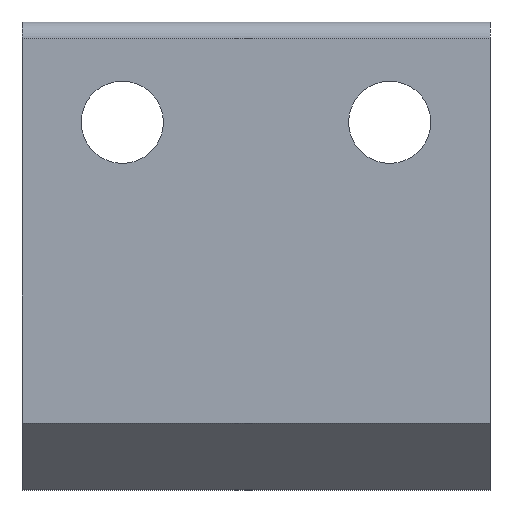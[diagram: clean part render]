
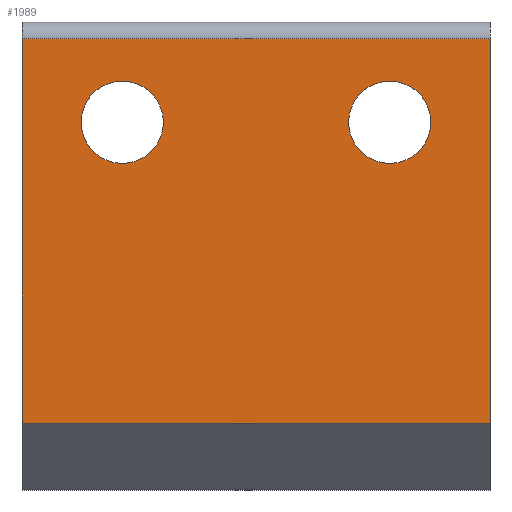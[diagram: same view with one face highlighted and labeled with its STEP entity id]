
A CAD part, front view. The second image highlights one B-rep face of the part: STEP entity #1989.
In plain terms, the highlighted planar face has unit normal (0, -1, 0).
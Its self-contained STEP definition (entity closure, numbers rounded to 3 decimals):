
#1506=CARTESIAN_POINT('',(14.,-5.0,8.5));
#1507=VERTEX_POINT('',#1506);
#1525=CARTESIAN_POINT('',(0.0,-5.0,8.5));
#1526=VERTEX_POINT('',#1525);
#1534=CARTESIAN_POINT('',(0.0,-5.0,8.5));
#1535=DIRECTION('',(1.0,0.0,0.0));
#1536=VECTOR('',#1535,14.);
#1537=LINE('',#1534,#1536);
#1538=EDGE_CURVE('',#1526,#1507,#1537,.T.);
#1590=CARTESIAN_POINT('',(0.0,-5.,-3.));
#1591=VERTEX_POINT('',#1590);
#1598=CARTESIAN_POINT('',(0.0,-5.0,8.5));
#1599=DIRECTION('',(0.0,0.0,-1.0));
#1600=VECTOR('',#1599,11.5);
#1601=LINE('',#1598,#1600);
#1602=EDGE_CURVE('',#1526,#1591,#1601,.T.);
#1666=CARTESIAN_POINT('',(14.,-5.,-3.));
#1667=VERTEX_POINT('',#1666);
#1674=CARTESIAN_POINT('',(14.,-5.,-3.));
#1675=DIRECTION('',(-1.0,0.0,0.0));
#1676=VECTOR('',#1675,14.);
#1677=LINE('',#1674,#1676);
#1678=EDGE_CURVE('',#1667,#1591,#1677,.T.);
#1813=CARTESIAN_POINT('',(12.23,-5.0,6.));
#1814=VERTEX_POINT('',#1813);
#1815=CARTESIAN_POINT('',(11.0,-5.0,6.));
#1816=DIRECTION('',(0.0,1.0,0.0));
#1817=DIRECTION('',(-1.0,0.0,0.0));
#1818=AXIS2_PLACEMENT_3D('',#1815,#1816,#1817);
#1819=CIRCLE('',#1818,1.23);
#1820=EDGE_CURVE('',#1814,#1814,#1819,.T.);
#1903=CARTESIAN_POINT('',(4.23,-5.0,6.));
#1904=VERTEX_POINT('',#1903);
#1905=CARTESIAN_POINT('',(3.,-5.0,6.));
#1906=DIRECTION('',(0.0,1.0,0.0));
#1907=DIRECTION('',(-1.0,0.0,0.0));
#1908=AXIS2_PLACEMENT_3D('',#1905,#1906,#1907);
#1909=CIRCLE('',#1908,1.23);
#1910=EDGE_CURVE('',#1904,#1904,#1909,.T.);
#1967=CARTESIAN_POINT('',(0.0,-5.,-5.));
#1968=DIRECTION('',(0.0,-1.0,0.0));
#1969=DIRECTION('',(0.0,0.0,-1.0));
#1970=AXIS2_PLACEMENT_3D('',#1967,#1968,#1969);
#1971=PLANE('',#1970);
#1972=ORIENTED_EDGE('',*,*,#1538,.F.);
#1973=ORIENTED_EDGE('',*,*,#1602,.T.);
#1974=ORIENTED_EDGE('',*,*,#1678,.F.);
#1975=CARTESIAN_POINT('',(14.,-5.,-3.));
#1976=DIRECTION('',(0.0,0.0,1.0));
#1977=VECTOR('',#1976,11.5);
#1978=LINE('',#1975,#1977);
#1979=EDGE_CURVE('',#1667,#1507,#1978,.T.);
#1980=ORIENTED_EDGE('',*,*,#1979,.T.);
#1981=EDGE_LOOP('',(#1972,#1973,#1974,#1980));
#1982=FACE_OUTER_BOUND('',#1981,.T.);
#1983=ORIENTED_EDGE('',*,*,#1820,.T.);
#1984=EDGE_LOOP('',(#1983));
#1985=FACE_BOUND('',#1984,.T.);
#1986=ORIENTED_EDGE('',*,*,#1910,.T.);
#1987=EDGE_LOOP('',(#1986));
#1988=FACE_BOUND('',#1987,.T.);
#1989=ADVANCED_FACE('',(#1982,#1985,#1988),#1971,.T.);
